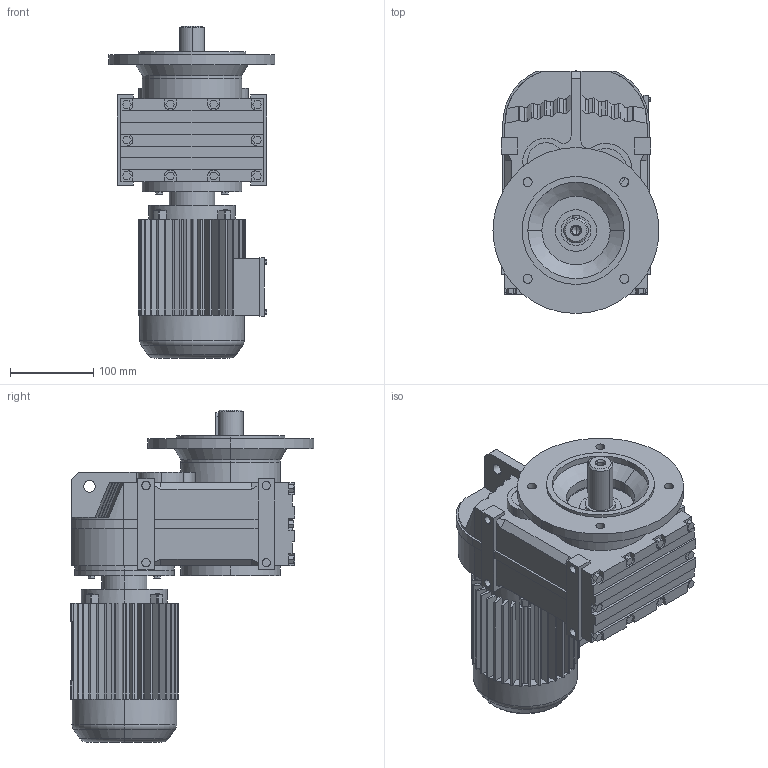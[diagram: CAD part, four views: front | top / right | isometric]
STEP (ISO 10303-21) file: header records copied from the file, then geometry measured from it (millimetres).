
FILE_DESCRIPTION(('Open CASCADE Model'),'2;1');
FILE_NAME('Open CASCADE Shape Model','2021-07-14T17:15:15',('Author'),( 'Open CASCADE'),'Open CASCADE STEP processor 6.3','Open CASCADE 6.3' ,'Unknown');
FILE_SCHEMA(('AUTOMOTIVE_DESIGN_CC2 { 1 2 10303 214 -1 1 5 4 }'));
Length unit declared in the file: millimetre
Products named in the file (5): 1_FF47-Y63S; FA27‵157_47.step; 萇儂_120_Y63S.step; す瑩妗陑粣F_47.step; 楊擘F_47.step
Assembly tree (4 placements, depth 2):
  1_FF47-Y63S
    FA27‵157_47.step
    萇儂_120_Y63S.step
    す瑩妗陑粣F_47.step
    楊擘F_47.step
Bounding box: 200 x 293.1 x 400 mm (x, y, z)
Volume: 7392183 mm3; surface area: 553038.2 mm2
Topology: 4 solids, 4 shells, 818 faces, 2146 edges, 1392 vertices
Faces by surface type: plane 570, cylinder 216, bspline 16, cone 12, torus 4
Entity records: 54915 total; most frequent: CARTESIAN_POINT 13816, DIRECTION 7163, ORIENTED_EDGE 4288, PCURVE 4288, DEFINITIONAL_REPRESENTATION 4288, LINE 3963, VECTOR 3963, EDGE_CURVE 2144
